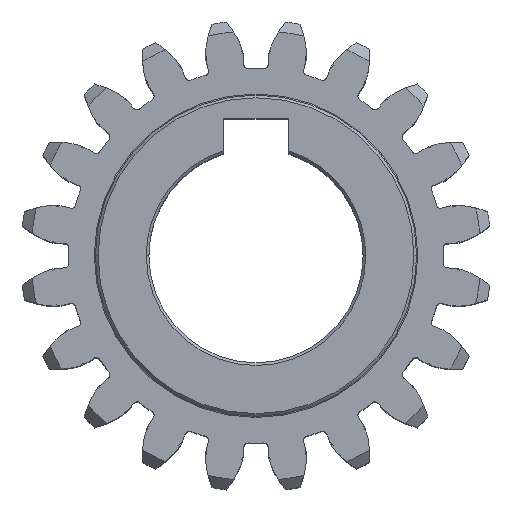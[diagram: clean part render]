
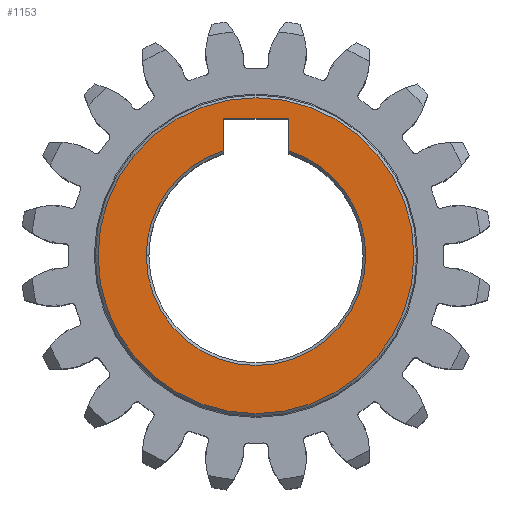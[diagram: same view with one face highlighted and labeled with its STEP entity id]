
A CAD part, top view. The second image highlights one B-rep face of the part: STEP entity #1153.
In plain terms, the highlighted planar face has unit normal (0, 0, 1).
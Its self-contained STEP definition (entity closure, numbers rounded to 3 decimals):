
#604 = CARTESIAN_POINT ( 'NONE',  ( -10.25, 0., 15. ) ) ;
#863 = VERTEX_POINT ( 'NONE', #7690 ) ;
#992 = DIRECTION ( 'NONE',  ( 0., 0., -1. ) ) ;
#1086 = PLANE ( 'NONE',  #5221 ) ;
#1153 = ADVANCED_FACE ( 'NONE', ( #10964, #3986 ), #1086, .T. ) ;
#1193 = CARTESIAN_POINT ( 'NONE',  ( -3., 9.801, 15. ) ) ;
#1303 = ORIENTED_EDGE ( 'NONE', *, *, #1757, .T. ) ;
#1340 = AXIS2_PLACEMENT_3D ( 'NONE', #9079, #11050, #2225 ) ;
#1394 = VECTOR ( 'NONE', #4603, 1000. ) ;
#1424 = CARTESIAN_POINT ( 'NONE',  ( 0., 0., 15. ) ) ;
#1459 = VERTEX_POINT ( 'NONE', #11650 ) ;
#1757 = EDGE_CURVE ( 'NONE', #9380, #863, #12293, .T. ) ;
#2225 = DIRECTION ( 'NONE',  ( 1., 0., 0. ) ) ;
#2257 = CARTESIAN_POINT ( 'NONE',  ( 0., 0., 15. ) ) ;
#2370 = VERTEX_POINT ( 'NONE', #5912 ) ;
#2555 = EDGE_CURVE ( 'NONE', #2370, #3748, #4570, .T. ) ;
#2999 = CARTESIAN_POINT ( 'NONE',  ( 0., 0., 15. ) ) ;
#3147 = EDGE_CURVE ( 'NONE', #10097, #1459, #3973, .T. ) ;
#3307 = DIRECTION ( 'NONE',  ( 0., 0., -1. ) ) ;
#3638 = EDGE_CURVE ( 'NONE', #11084, #9380, #11699, .T. ) ;
#3736 = ORIENTED_EDGE ( 'NONE', *, *, #4542, .T. ) ;
#3748 = VERTEX_POINT ( 'NONE', #8955 ) ;
#3854 = CARTESIAN_POINT ( 'NONE',  ( 3., 7.2, 15. ) ) ;
#3973 = LINE ( 'NONE', #3854, #11080 ) ;
#3986 = FACE_BOUND ( 'NONE', #8669, .T. ) ;
#4280 = DIRECTION ( 'NONE',  ( 0., 0., -1. ) ) ;
#4542 = EDGE_CURVE ( 'NONE', #5951, #11084, #12113, .T. ) ;
#4570 = CIRCLE ( 'NONE', #1340, 14.75 ) ;
#4603 = DIRECTION ( 'NONE',  ( 0., 1., 0. ) ) ;
#4867 = DIRECTION ( 'NONE',  ( 0., -1., 0. ) ) ;
#4936 = DIRECTION ( 'NONE',  ( 0., 0., 1. ) ) ;
#5221 = AXIS2_PLACEMENT_3D ( 'NONE', #2257, #4936, #12504 ) ;
#5912 = CARTESIAN_POINT ( 'NONE',  ( 14.75, 0., 15. ) ) ;
#5951 = VERTEX_POINT ( 'NONE', #6770 ) ;
#6500 = EDGE_LOOP ( 'NONE', ( #11685, #8697 ) ) ;
#6636 = AXIS2_PLACEMENT_3D ( 'NONE', #1424, #3307, #11057 ) ;
#6770 = CARTESIAN_POINT ( 'NONE',  ( 10.25, 0., 15. ) ) ;
#7074 = CIRCLE ( 'NONE', #12355, 14.75 ) ;
#7227 = CARTESIAN_POINT ( 'NONE',  ( 3., 12.8, 15. ) ) ;
#7690 = CARTESIAN_POINT ( 'NONE',  ( -3., 12.8, 15. ) ) ;
#7955 = CARTESIAN_POINT ( 'NONE',  ( 0., 0., 15. ) ) ;
#8070 = ORIENTED_EDGE ( 'NONE', *, *, #10143, .T. ) ;
#8109 = AXIS2_PLACEMENT_3D ( 'NONE', #11900, #4280, #9160 ) ;
#8147 = DIRECTION ( 'NONE',  ( 1., 0., 0. ) ) ;
#8669 = EDGE_LOOP ( 'NONE', ( #11826, #9545, #3736, #10791, #1303, #8070 ) ) ;
#8697 = ORIENTED_EDGE ( 'NONE', *, *, #2555, .T. ) ;
#8721 = DIRECTION ( 'NONE',  ( 1., 0., 0. ) ) ;
#8888 = CARTESIAN_POINT ( 'NONE',  ( 3., 12.8, 15. ) ) ;
#8908 = DIRECTION ( 'NONE',  ( 0., 0., 1. ) ) ;
#8955 = CARTESIAN_POINT ( 'NONE',  ( -14.75, 0., 15. ) ) ;
#9073 = VECTOR ( 'NONE', #11117, 1000. ) ;
#9079 = CARTESIAN_POINT ( 'NONE',  ( 0., 0., 15. ) ) ;
#9160 = DIRECTION ( 'NONE',  ( 1., 0., 0. ) ) ;
#9380 = VERTEX_POINT ( 'NONE', #1193 ) ;
#9545 = ORIENTED_EDGE ( 'NONE', *, *, #11950, .T. ) ;
#10097 = VERTEX_POINT ( 'NONE', #8888 ) ;
#10143 = EDGE_CURVE ( 'NONE', #863, #10097, #12065, .T. ) ;
#10478 = AXIS2_PLACEMENT_3D ( 'NONE', #2999, #992, #8721 ) ;
#10542 = CIRCLE ( 'NONE', #8109, 10.25 ) ;
#10791 = ORIENTED_EDGE ( 'NONE', *, *, #3638, .T. ) ;
#10964 = FACE_OUTER_BOUND ( 'NONE', #6500, .T. ) ;
#11011 = EDGE_CURVE ( 'NONE', #3748, #2370, #7074, .T. ) ;
#11050 = DIRECTION ( 'NONE',  ( 0., 0., 1. ) ) ;
#11057 = DIRECTION ( 'NONE',  ( 1., 0., 0. ) ) ;
#11080 = VECTOR ( 'NONE', #4867, 1000. ) ;
#11084 = VERTEX_POINT ( 'NONE', #604 ) ;
#11117 = DIRECTION ( 'NONE',  ( 1., 0., 0. ) ) ;
#11469 = CARTESIAN_POINT ( 'NONE',  ( -3., 7.2, 15. ) ) ;
#11650 = CARTESIAN_POINT ( 'NONE',  ( 3., 9.801, 15. ) ) ;
#11685 = ORIENTED_EDGE ( 'NONE', *, *, #11011, .T. ) ;
#11699 = CIRCLE ( 'NONE', #10478, 10.25 ) ;
#11826 = ORIENTED_EDGE ( 'NONE', *, *, #3147, .T. ) ;
#11900 = CARTESIAN_POINT ( 'NONE',  ( 0., 0., 15. ) ) ;
#11950 = EDGE_CURVE ( 'NONE', #1459, #5951, #10542, .T. ) ;
#12065 = LINE ( 'NONE', #7227, #9073 ) ;
#12113 = CIRCLE ( 'NONE', #6636, 10.25 ) ;
#12293 = LINE ( 'NONE', #11469, #1394 ) ;
#12355 = AXIS2_PLACEMENT_3D ( 'NONE', #7955, #8908, #8147 ) ;
#12504 = DIRECTION ( 'NONE',  ( 1., 0., 0. ) ) ;
